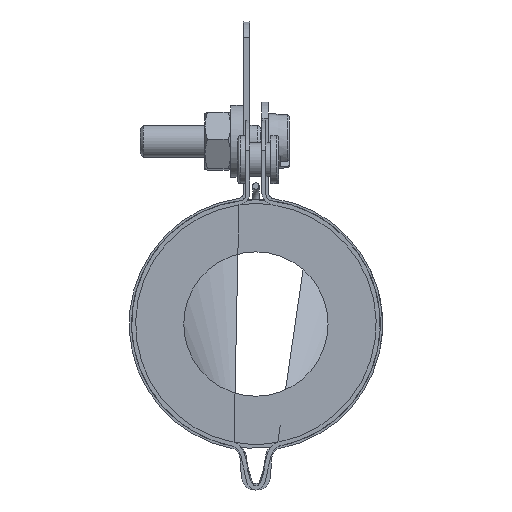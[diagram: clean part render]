
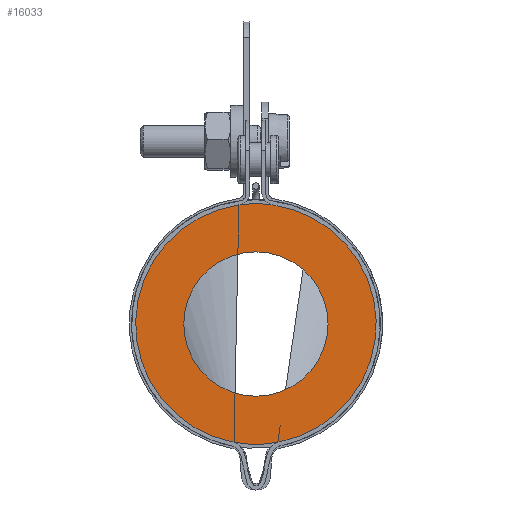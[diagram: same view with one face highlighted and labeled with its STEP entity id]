
A CAD part, front view. The second image highlights one B-rep face of the part: STEP entity #16033.
In plain terms, the highlighted planar face has unit normal (0, -1, 0).
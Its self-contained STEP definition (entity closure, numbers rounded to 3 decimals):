
#69=B_SPLINE_CURVE_WITH_KNOTS($,3,(#26828,#26829,#26830,#26831),
 .UNSPECIFIED.,.F.,.F.,(4,4),(0.,0.018),.UNSPECIFIED.);
#70=B_SPLINE_CURVE_WITH_KNOTS($,3,(#26835,#26836,#26837,#26838),
 .UNSPECIFIED.,.F.,.F.,(4,4),(0.126,0.143),
 .UNSPECIFIED.);
#1372=LINE($,#26840,#2730);
#1373=LINE($,#26847,#2731);
#2730=VECTOR($,#21943,0.099);
#2731=VECTOR($,#21950,0.099);
#3119=FACE_BOUND($,#4751,.T.);
#3874=FACE_OUTER_BOUND($,#4750,.T.);
#4750=EDGE_LOOP($,(#13487,#13488,#13489,#13490,#13491,#13492,#13493,#13494));
#4751=EDGE_LOOP($,(#13495));
#5616=CIRCLE($,#17590,9.);
#5617=CIRCLE($,#17593,15.);
#5618=CIRCLE($,#17594,15.);
#5619=CIRCLE($,#17595,15.);
#5620=CIRCLE($,#17596,15.);
#7073=VERTEX_POINT($,#26822);
#7074=VERTEX_POINT($,#26826);
#7075=VERTEX_POINT($,#26827);
#7076=VERTEX_POINT($,#26832);
#7077=VERTEX_POINT($,#26834);
#7078=VERTEX_POINT($,#26839);
#7079=VERTEX_POINT($,#26841);
#7080=VERTEX_POINT($,#26843);
#7081=VERTEX_POINT($,#26845);
#9241=EDGE_CURVE($,#7073,#7073,#5616,.T.);
#9242=EDGE_CURVE($,#7074,#7075,#69,.T.);
#9243=EDGE_CURVE($,#7075,#7076,#5617,.T.);
#9244=EDGE_CURVE($,#7076,#7077,#70,.T.);
#9245=EDGE_CURVE($,#7077,#7078,#1372,.T.);
#9246=EDGE_CURVE($,#7078,#7079,#5618,.T.);
#9247=EDGE_CURVE($,#7079,#7080,#5619,.T.);
#9248=EDGE_CURVE($,#7080,#7081,#5620,.T.);
#9249=EDGE_CURVE($,#7081,#7074,#1373,.T.);
#13487=ORIENTED_EDGE($,*,*,#9242,.T.);
#13488=ORIENTED_EDGE($,*,*,#9243,.T.);
#13489=ORIENTED_EDGE($,*,*,#9244,.T.);
#13490=ORIENTED_EDGE($,*,*,#9245,.T.);
#13491=ORIENTED_EDGE($,*,*,#9246,.T.);
#13492=ORIENTED_EDGE($,*,*,#9247,.T.);
#13493=ORIENTED_EDGE($,*,*,#9248,.T.);
#13494=ORIENTED_EDGE($,*,*,#9249,.T.);
#13495=ORIENTED_EDGE($,*,*,#9241,.T.);
#14461=PLANE($,#17592);
#16033=ADVANCED_FACE($,(#3874,#3119),#14461,.T.);
#17590=AXIS2_PLACEMENT_3D($,#26823,#21935,#21936);
#17592=AXIS2_PLACEMENT_3D($,#26825,#21939,#21940);
#17593=AXIS2_PLACEMENT_3D($,#26833,#21941,#21942);
#17594=AXIS2_PLACEMENT_3D($,#26842,#21944,#21945);
#17595=AXIS2_PLACEMENT_3D($,#26844,#21946,#21947);
#17596=AXIS2_PLACEMENT_3D($,#26846,#21948,#21949);
#21935=DIRECTION('center_axis',(0.,1.,0.));
#21936=DIRECTION('ref_axis',(1.,0.,0.));
#21939=DIRECTION('center_axis',(0.,-1.,0.));
#21940=DIRECTION('ref_axis',(0.,0.,-1.));
#21941=DIRECTION('center_axis',(0.,-1.,0.));
#21942=DIRECTION('ref_axis',(1.,0.,0.));
#21943=DIRECTION($,(0.995,0.,0.097));
#21944=DIRECTION('center_axis',(0.,-1.,0.));
#21945=DIRECTION('ref_axis',(1.,0.,0.));
#21946=DIRECTION('center_axis',(0.,-1.,0.));
#21947=DIRECTION('ref_axis',(1.,0.,0.));
#21948=DIRECTION('center_axis',(0.,-1.,0.));
#21949=DIRECTION('ref_axis',(1.,0.,0.));
#21950=DIRECTION($,(0.995,0.,-0.097));
#26822=CARTESIAN_POINT('',(-9.,0.,0.));
#26823=CARTESIAN_POINT('Origin',(0.,0.,0.));
#26825=CARTESIAN_POINT('Origin',(0.,0.,0.));
#26826=CARTESIAN_POINT('',(-2.901,0.,-14.707));
#26827=CARTESIAN_POINT('',(-2.731,0.,-14.749));
#26828=CARTESIAN_POINT('Ctrl Pts',(-2.901,0.,-14.707));
#26829=CARTESIAN_POINT('Ctrl Pts',(-2.843,0.,-14.718));
#26830=CARTESIAN_POINT('Ctrl Pts',(-2.786,0.,-14.732));
#26831=CARTESIAN_POINT('Ctrl Pts',(-2.731,0.,-14.749));
#26832=CARTESIAN_POINT('',(2.731,0.,-14.749));
#26833=CARTESIAN_POINT('Origin',(0.,0.,0.));
#26834=CARTESIAN_POINT('',(2.901,0.,-14.707));
#26835=CARTESIAN_POINT('Ctrl Pts',(2.731,0.,
-14.75));
#26836=CARTESIAN_POINT('Ctrl Pts',(2.786,0.,
-14.732));
#26837=CARTESIAN_POINT('Ctrl Pts',(2.843,0.,
-14.718));
#26838=CARTESIAN_POINT('Ctrl Pts',(2.901,0.,
-14.707));
#26839=CARTESIAN_POINT('',(3.,0.,-14.697));
#26840=CARTESIAN_POINT($,(2.176,0.,-14.777));
#26841=CARTESIAN_POINT('',(2.123,0.,14.849));
#26842=CARTESIAN_POINT('Origin',(0.,0.,0.));
#26843=CARTESIAN_POINT('',(-2.123,0.,14.849));
#26844=CARTESIAN_POINT('Origin',(0.,0.,0.));
#26845=CARTESIAN_POINT('',(-3.,0.,-14.697));
#26846=CARTESIAN_POINT('Origin',(0.,0.,0.));
#26847=CARTESIAN_POINT($,(-2.176,0.,-14.777));
